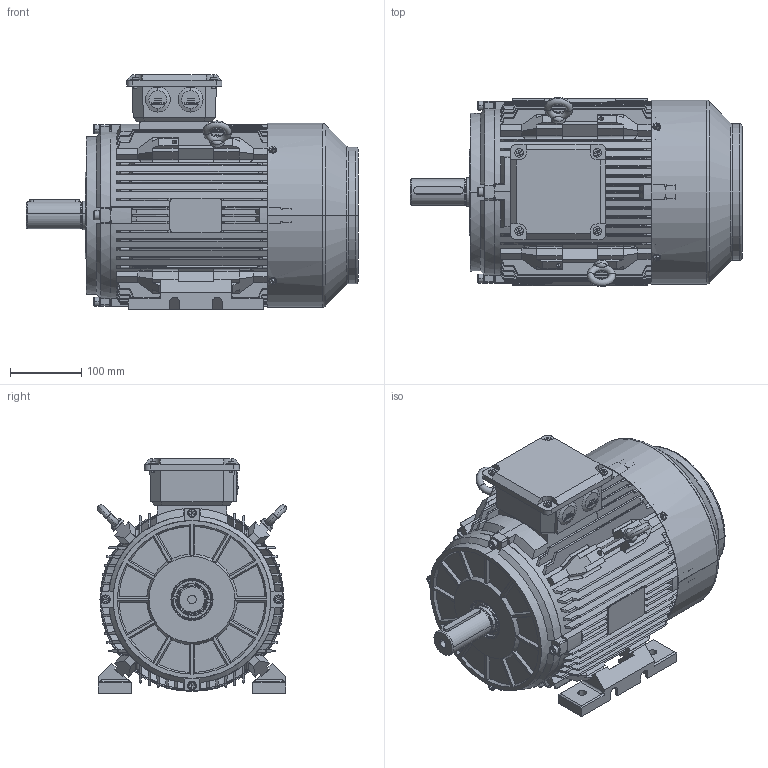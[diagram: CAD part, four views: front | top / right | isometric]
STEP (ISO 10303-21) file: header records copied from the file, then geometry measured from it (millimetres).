
FILE_DESCRIPTION (( 'STEP AP214' ), '1' );
FILE_NAME ('BCT4750.13C203.11.step', '2020-04-23T13:30:03', ( '' ), ( '' ), 'SwSTEP 2.0', 'SolidWorks 2019', '' );
FILE_SCHEMA (( 'AUTOMOTIVE_DESIGN' ));
Length unit declared in the file: millimetre
Products named in the file (1): BCT4750.13C203.11
Bounding box: 467 x 265.93 x 330.04 mm (x, y, z)
Volume: 4436012.8 mm3; surface area: 1632951.3 mm2
Topology: 35 solids, 35 shells, 4108 faces, 11321 edges, 7378 vertices
Faces by surface type: plane 2017, cylinder 1508, cone 339, bspline 132, torus 112
Entity records: 154538 total; most frequent: CARTESIAN_POINT 50005, ORIENTED_EDGE 22538, DIRECTION 20683, EDGE_CURVE 11269, VERTEX_POINT 7382, AXIS2_PLACEMENT_3D 7044, VECTOR 6595, LINE 6595
